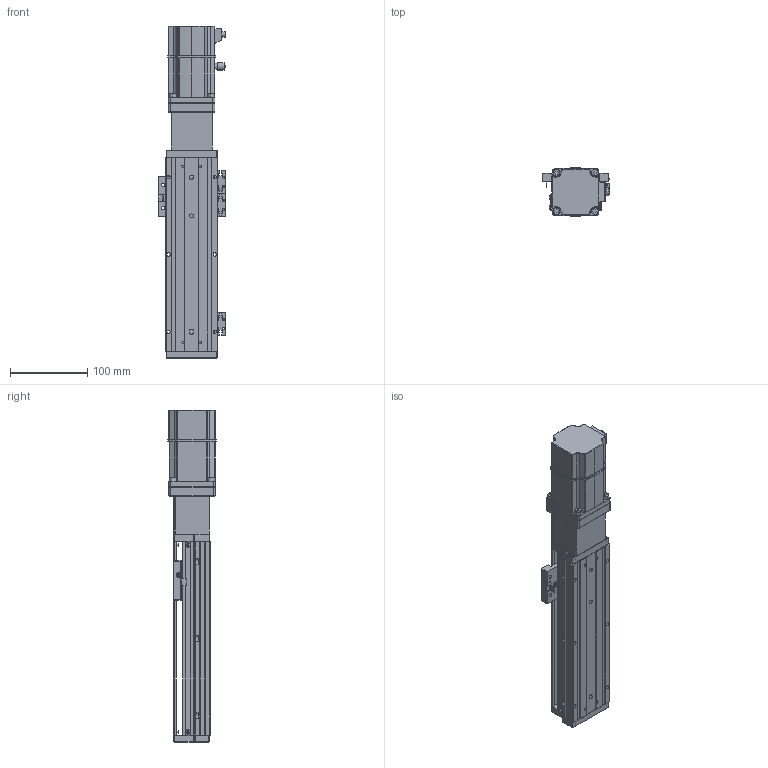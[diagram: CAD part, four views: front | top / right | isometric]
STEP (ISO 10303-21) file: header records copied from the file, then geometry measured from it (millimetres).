
FILE_DESCRIPTION (( 'STEP AP203' ), '1' );
FILE_NAME ('KTHA60-150-BC-M20-C4L.step', '2022-12-16T01:28:11', ( '微软用户' ), ( '微软中国' ), 'SwSTEP 2.0', 'SolidWorks 2020', '' );
FILE_SCHEMA (( 'CONFIG_CONTROL_DESIGN' ));
Length unit declared in the file: millimetre
Products named in the file (18): GBT 70.1-M3℅6; KTHA60-150-BC-M20-C4L; GBT 70.3-M3℅6; CTHA60-016; EE_SX911P_R; CTHA60-013; CTHA60-017; CTHA60-027; KTHA60-001_250; CTHA60-021; KTHA60-002; KTHA60-004; GBT 70.1-M4×16; CTHA60-006-3_M20B; KTHA60-005; GBT77-2000M3-3; _X2_4E0983F1_X0_200W_1; GB¨uT 70.2-M3¡Á5_M3¡Á6
Assembly tree (50 placements, depth 2):
  KTHA60-150-BC-M20-C4L
    KTHA60-001_250
    KTHA60-004
    KTHA60-005
    GB¨uT 70.2-M3¡Á5_M3¡Á6  x6
    GBT 70.3-M3℅6  x6
    EE_SX911P_R  x3
    CTHA60-017  x3
    CTHA60-021  x2
    GBT 70.1-M4×16  x8
    GBT77-2000M3-3  x6
    GBT 70.1-M3℅6  x6
    CTHA60-016  x2
    CTHA60-013
    CTHA60-027
    KTHA60-002
    CTHA60-006-3_M20B
    _X2_4E0983F1_X0_200W_1
Bounding box: 87.72 x 62.42 x 429.7 mm (x, y, z)
Volume: 962939.7 mm3; surface area: 217994.8 mm2
Topology: 53 solids, 53 shells, 2235 faces, 5259 edges, 3212 vertices
Faces by surface type: plane 1208, cylinder 570, cone 292, torus 80, bspline 69, sphere 16
Entity records: 38247 total; most frequent: CARTESIAN_POINT 7456, DIRECTION 5938, ORIENTED_EDGE 5722, EDGE_CURVE 2861, AXIS2_PLACEMENT_3D 2047, VECTOR 1844, LINE 1844, VERTEX_POINT 1779
